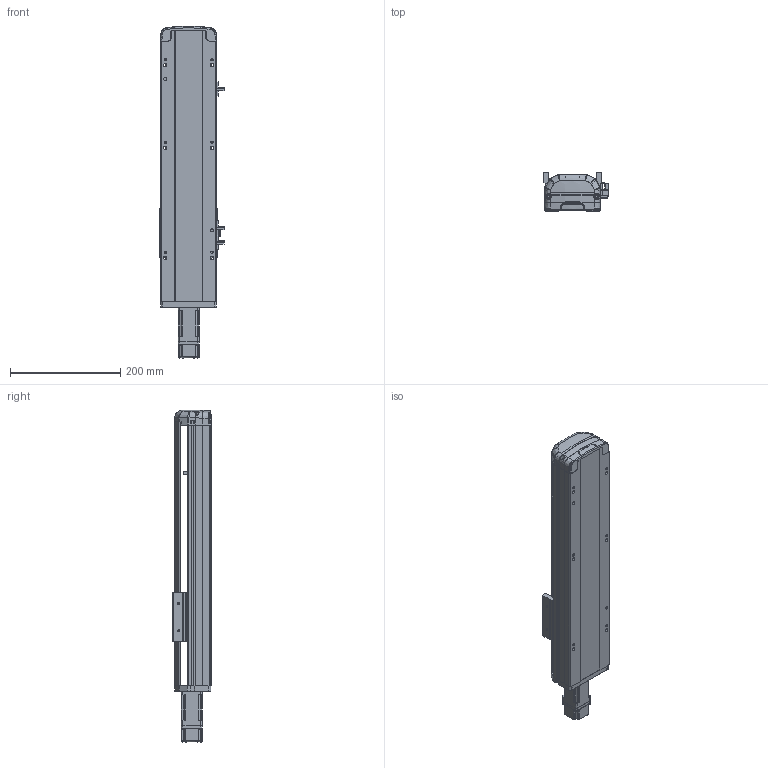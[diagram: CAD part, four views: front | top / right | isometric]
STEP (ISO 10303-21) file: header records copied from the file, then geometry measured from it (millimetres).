
FILE_DESCRIPTION (( 'STEP AP214' ), '1' );
FILE_NAME ('RTH10-XX-250-E-M10-C4.STEP', '2025-10-25T05:21:52', ( 'Microsoft' ), ( 'Microsoft' ), 'SwSTEP 2.0', 'SolidWorks 2018', '' );
FILE_SCHEMA (( 'AUTOMOTIVE_DESIGN' ));
Length unit declared in the file: millimetre
Products named in the file (9): N_OMRON EE-SX672 传感器^RTH10-XX-XX-E-M10-C4; N_RTH12-GY-001P^RTH10-XX-XX-E-M10-C4; N_RTH12-E-008-M10萇儂啣^RTH10-XX-XX-E-M10-C4; RTH10-XX-250-E-M10-C4; N_RTH12-E-011P-臏倰第菁釱^RTH10-XX-XX-E-M10-C4; N_RTH12-GY-004-賑釱^RTH10-XX-XX-E-M10-C4; N_RTH13-L-012覜茼え俋离^RTH10-XX-XX-E-M10-C4; N_P10^RTH10-XX-XX-E-M10-C4; N_RTH12-E-007P-奻裔^RTH10-XX-XX-E-M10-C4
Assembly tree (10 placements, depth 2):
  RTH10-XX-250-E-M10-C4
    N_RTH12-E-011P-臏倰第菁釱^RTH10-XX-XX-E-M10-C4
    N_RTH13-L-012覜茼え俋离^RTH10-XX-XX-E-M10-C4
    N_OMRON EE-SX672 传感器^RTH10-XX-XX-E-M10-C4  x3
    N_P10^RTH10-XX-XX-E-M10-C4
    N_RTH12-E-007P-奻裔^RTH10-XX-XX-E-M10-C4
    N_RTH12-E-008-M10萇儂啣^RTH10-XX-XX-E-M10-C4
    N_RTH12-GY-001P^RTH10-XX-XX-E-M10-C4
    N_RTH12-GY-004-賑釱^RTH10-XX-XX-E-M10-C4
Bounding box: 116.5 x 70 x 603.34 mm (x, y, z)
Volume: 2174027.9 mm3; surface area: 369223.8 mm2
Topology: 9 solids, 11 shells, 1912 faces, 5299 edges, 3474 vertices
Faces by surface type: plane 964, bspline 472, cylinder 441, cone 33, torus 2
Entity records: 56995 total; most frequent: CARTESIAN_POINT 22814, ORIENTED_EDGE 7678, DIRECTION 5863, EDGE_CURVE 3845, VERTEX_POINT 2518, LINE 2049, VECTOR 2049, AXIS2_PLACEMENT_3D 1907
